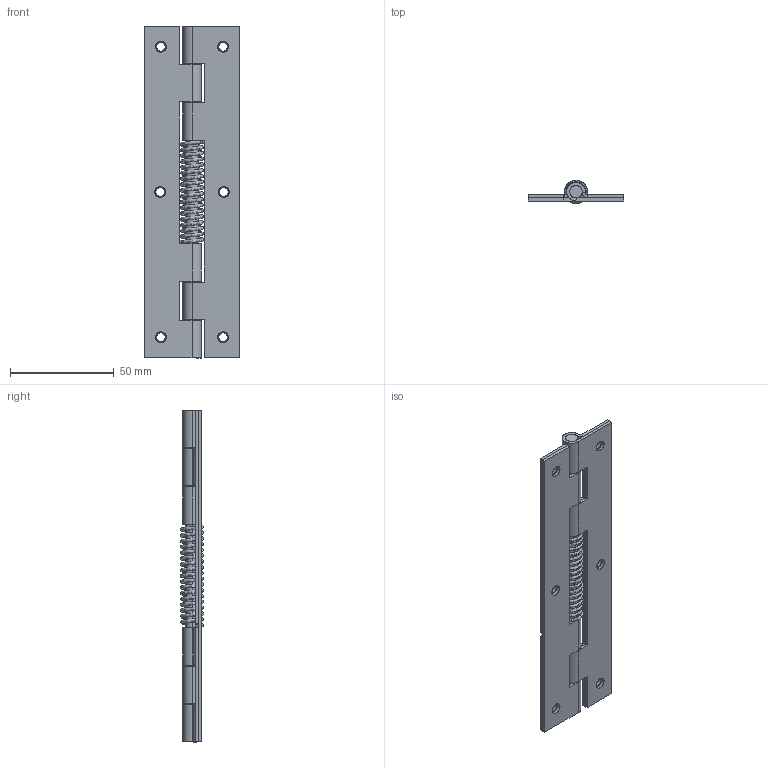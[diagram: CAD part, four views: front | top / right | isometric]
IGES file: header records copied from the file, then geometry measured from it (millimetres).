
Start section: SolidWorks IGES file using analytic representation for surfaces
Global section: file name: C:\Users\cbrechard\Desktop\CC 1474\CC 1474.IGS; native system: SolidWorks 2008; preprocessor: SolidWorks 2008; author: cbrechard; date: 120124.101510; units: millimetre
Bounding box: 46 x 11.2 x 160 mm (x, y, z)
Surface area: 35547.7 mm2 (no closed solid volume)
Topology: 0 solids, 0 shells, 188 faces, 2444 edges, 2444 vertices
Faces by surface type: bspline 102, revolution 86
